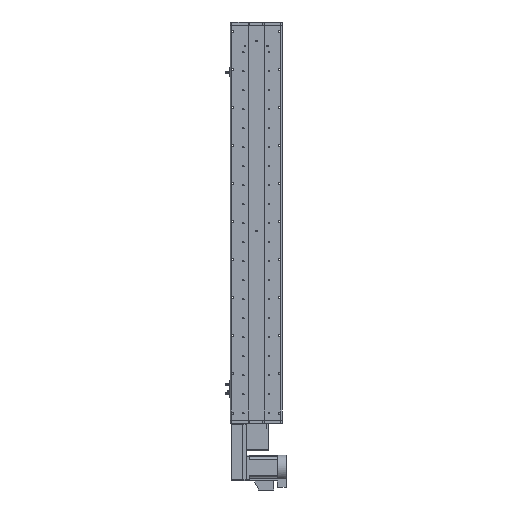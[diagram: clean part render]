
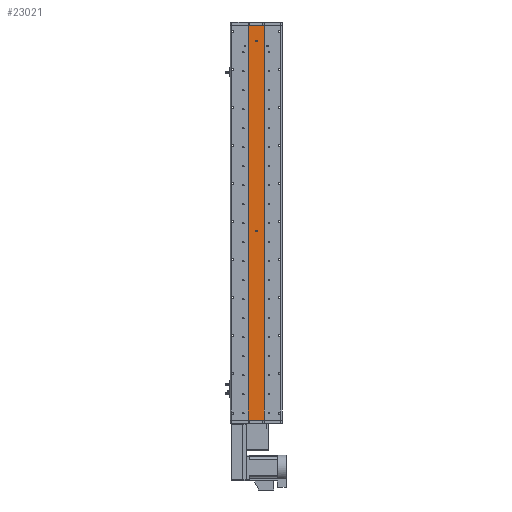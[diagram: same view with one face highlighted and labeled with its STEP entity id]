
A CAD part, front view. The second image highlights one B-rep face of the part: STEP entity #23021.
In plain terms, the highlighted planar face has unit normal (0, -1, 0).
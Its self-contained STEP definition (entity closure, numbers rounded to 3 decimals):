
#806 = CIRCLE ( 'NONE', #13658, 3. ) ;
#831 = LINE ( 'NONE', #41615, #38050 ) ;
#1001 = EDGE_LOOP ( 'NONE', ( #54387, #65093 ) ) ;
#1183 = DIRECTION ( 'NONE',  ( 0., 0., -1. ) ) ;
#1935 = CARTESIAN_POINT ( 'NONE',  ( 25., 1., -623.5 ) ) ;
#2424 = VERTEX_POINT ( 'NONE', #54585 ) ;
#2996 = CARTESIAN_POINT ( 'NONE',  ( 0., 1., 570.5 ) ) ;
#3657 = CARTESIAN_POINT ( 'NONE',  ( 0., 1., -23.5 ) ) ;
#6151 = LINE ( 'NONE', #47223, #7735 ) ;
#7024 = ORIENTED_EDGE ( 'NONE', *, *, #42788, .T. ) ;
#7374 = CARTESIAN_POINT ( 'NONE',  ( 25., 1., 623.5 ) ) ;
#7735 = VECTOR ( 'NONE', #41930, 1000. ) ;
#10205 = EDGE_CURVE ( 'NONE', #25267, #35537, #63975, .T. ) ;
#10430 = EDGE_CURVE ( 'NONE', #31325, #37023, #6151, .T. ) ;
#12245 = CARTESIAN_POINT ( 'NONE',  ( -25., 1., 623.5 ) ) ;
#13658 = AXIS2_PLACEMENT_3D ( 'NONE', #57086, #26779, #62139 ) ;
#14094 = CARTESIAN_POINT ( 'NONE',  ( 25., 1., 623.5 ) ) ;
#15031 = ORIENTED_EDGE ( 'NONE', *, *, #36873, .F. ) ;
#17426 = AXIS2_PLACEMENT_3D ( 'NONE', #49092, #18784, #54186 ) ;
#18784 = DIRECTION ( 'NONE',  ( 0., -1., 0. ) ) ;
#21111 = ORIENTED_EDGE ( 'NONE', *, *, #41152, .F. ) ;
#22137 = CARTESIAN_POINT ( 'NONE',  ( 0., 1., -26.5 ) ) ;
#23021 = ADVANCED_FACE ( 'NONE', ( #60987, #35673, #23806 ), #64539, .F. ) ;
#23324 = EDGE_LOOP ( 'NONE', ( #7024, #30998, #61517, #40649 ) ) ;
#23806 = FACE_OUTER_BOUND ( 'NONE', #23324, .T. ) ;
#24284 = DIRECTION ( 'NONE',  ( 0., 0., 1. ) ) ;
#25267 = VERTEX_POINT ( 'NONE', #27841 ) ;
#26297 = DIRECTION ( 'NONE',  ( 0., 0., -1. ) ) ;
#26779 = DIRECTION ( 'NONE',  ( 0., -1., 0. ) ) ;
#27252 = DIRECTION ( 'NONE',  ( 0., 0., -1. ) ) ;
#27841 = CARTESIAN_POINT ( 'NONE',  ( 0., 1., 576.5 ) ) ;
#30998 = ORIENTED_EDGE ( 'NONE', *, *, #61084, .F. ) ;
#31325 = VERTEX_POINT ( 'NONE', #12245 ) ;
#31531 = DIRECTION ( 'NONE',  ( 0., -1., 0. ) ) ;
#33260 = VECTOR ( 'NONE', #26297, 1000. ) ;
#35537 = VERTEX_POINT ( 'NONE', #2996 ) ;
#35673 = FACE_BOUND ( 'NONE', #1001, .T. ) ;
#36873 = EDGE_CURVE ( 'NONE', #50131, #53210, #37051, .T. ) ;
#37023 = VERTEX_POINT ( 'NONE', #7374 ) ;
#37051 = CIRCLE ( 'NONE', #62865, 3. ) ;
#38050 = VECTOR ( 'NONE', #61749, 1000. ) ;
#39612 = LINE ( 'NONE', #63292, #51488 ) ;
#40649 = ORIENTED_EDGE ( 'NONE', *, *, #55193, .T. ) ;
#41152 = EDGE_CURVE ( 'NONE', #53210, #50131, #54862, .T. ) ;
#41615 = CARTESIAN_POINT ( 'NONE',  ( 25., 1., 623.5 ) ) ;
#41930 = DIRECTION ( 'NONE',  ( 1., 0., 0. ) ) ;
#41937 = AXIS2_PLACEMENT_3D ( 'NONE', #22137, #57544, #27252 ) ;
#42566 = EDGE_LOOP ( 'NONE', ( #15031, #21111 ) ) ;
#42788 = EDGE_CURVE ( 'NONE', #2424, #43315, #39612, .T. ) ;
#43315 = VERTEX_POINT ( 'NONE', #1935 ) ;
#45479 = AXIS2_PLACEMENT_3D ( 'NONE', #14094, #54615, #24284 ) ;
#46675 = LINE ( 'NONE', #61437, #33260 ) ;
#47223 = CARTESIAN_POINT ( 'NONE',  ( 25., 1., 623.5 ) ) ;
#49092 = CARTESIAN_POINT ( 'NONE',  ( 0., 1., 573.5 ) ) ;
#50131 = VERTEX_POINT ( 'NONE', #54696 ) ;
#50355 = EDGE_CURVE ( 'NONE', #35537, #25267, #806, .T. ) ;
#51488 = VECTOR ( 'NONE', #58230, 1000. ) ;
#53210 = VERTEX_POINT ( 'NONE', #3657 ) ;
#54186 = DIRECTION ( 'NONE',  ( 0., 0., -1. ) ) ;
#54387 = ORIENTED_EDGE ( 'NONE', *, *, #50355, .F. ) ;
#54585 = CARTESIAN_POINT ( 'NONE',  ( -25., 1., -623.5 ) ) ;
#54615 = DIRECTION ( 'NONE',  ( 0., 1., 0. ) ) ;
#54696 = CARTESIAN_POINT ( 'NONE',  ( 0., 1., -29.5 ) ) ;
#54862 = CIRCLE ( 'NONE', #41937, 3. ) ;
#55193 = EDGE_CURVE ( 'NONE', #31325, #2424, #46675, .T. ) ;
#57086 = CARTESIAN_POINT ( 'NONE',  ( 0., 1., 573.5 ) ) ;
#57544 = DIRECTION ( 'NONE',  ( 0., -1., 0. ) ) ;
#58230 = DIRECTION ( 'NONE',  ( 1., 0., 0. ) ) ;
#60987 = FACE_BOUND ( 'NONE', #42566, .T. ) ;
#61084 = EDGE_CURVE ( 'NONE', #37023, #43315, #831, .T. ) ;
#61437 = CARTESIAN_POINT ( 'NONE',  ( -25., 1., 623.5 ) ) ;
#61517 = ORIENTED_EDGE ( 'NONE', *, *, #10430, .F. ) ;
#61749 = DIRECTION ( 'NONE',  ( 0., 0., -1. ) ) ;
#61811 = CARTESIAN_POINT ( 'NONE',  ( 0., 1., -26.5 ) ) ;
#62139 = DIRECTION ( 'NONE',  ( 0., 0., -1. ) ) ;
#62865 = AXIS2_PLACEMENT_3D ( 'NONE', #61811, #31531, #1183 ) ;
#63292 = CARTESIAN_POINT ( 'NONE',  ( 25., 1., -623.5 ) ) ;
#63975 = CIRCLE ( 'NONE', #17426, 3. ) ;
#64539 = PLANE ( 'NONE',  #45479 ) ;
#65093 = ORIENTED_EDGE ( 'NONE', *, *, #10205, .F. ) ;
